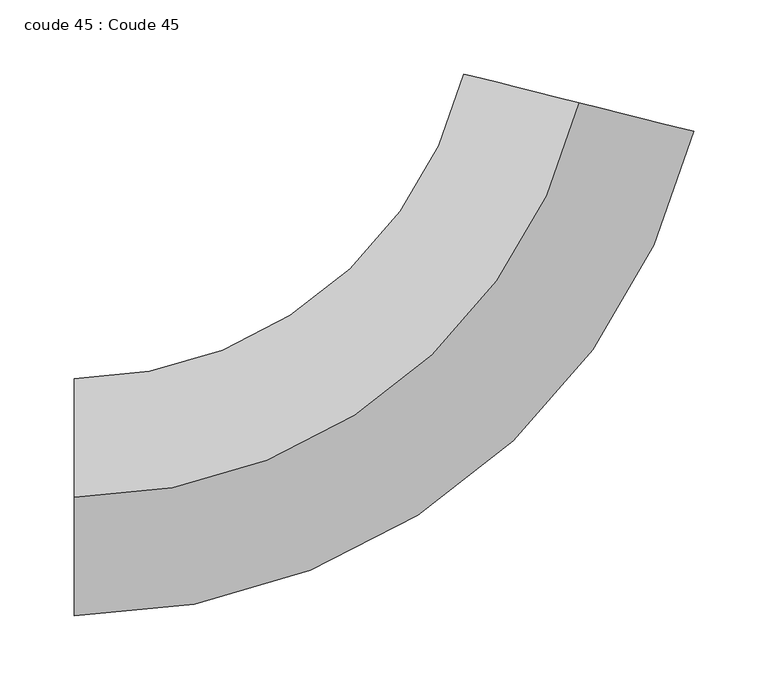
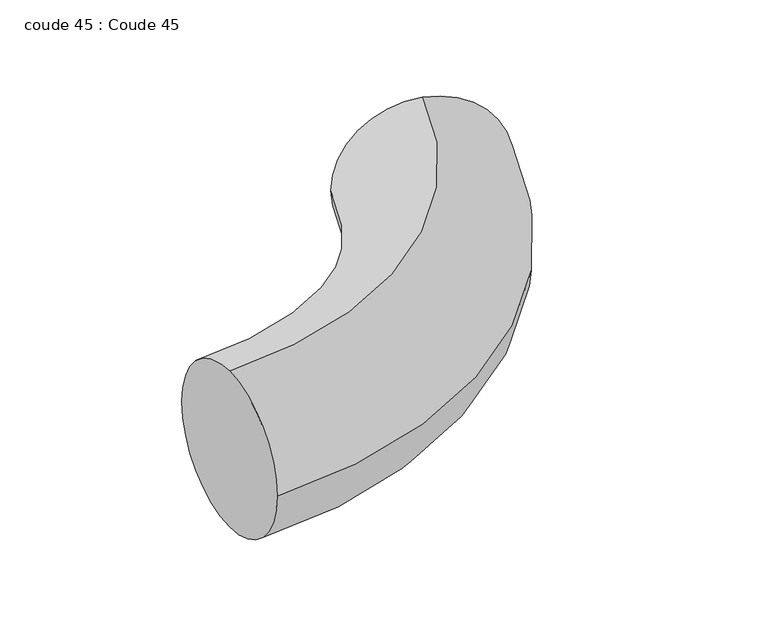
"""IFC4 building model written with IfcOpenShell, lengths in millimetres: duct fitting geometry, coude 45 : Coude 45."""

from ifc_helpers import new_model, si_unit, point, frame, origin, place, context, project, spatial, circle_curve, ellipse_curve, trimmed, source, transform, mapped, element, save
from ifc_brep_helpers import plane_surface, revolved_surface, advanced_brep


def coude_45_coude_45_6452feed(model_context):
    return source(origin(), model_context, "Body", "AdvancedBrep", [
        advanced_brep(
        [(-390.6428133, 148.9288739, 80.0), (-390.6428133, 228.9288739, 0.0), (-390.6428133, 148.9288739, -80.0), (-390.6428133, 68.9288739, 0.0), (-50.0, 415.0682077, 80.0), (27.6236581, 395.714456, 0.0), (-50.0, 415.0682077, -80.0), (-127.6236581, 434.4219593, 0.0)],
        [
            (0, 1, circle_curve(frame((-390.6428133, 148.9288739, 0.0), z_axis=(-1.0, 0.0, 0.0), x_axis=(0.0, 1.0, 0.0)), 80.0)),
            (1, 2, circle_curve(frame((-390.6428133, 148.9288739, 0.0), z_axis=(-1.0, 0.0, 0.0), x_axis=(0.0, 1.0, 0.0)), 80.0)),
            (2, 3, circle_curve(frame((-390.6428133, 148.9288739, 0.0), z_axis=(-1.0, 0.0, 0.0), x_axis=(0.0, 1.0, 0.0)), 80.0)),
            (3, 0, circle_curve(frame((-390.6428133, 148.9288739, 0.0), z_axis=(-1.0, 0.0, 0.0), x_axis=(0.0, 1.0, 0.0)), 80.0)),
            (4, 5, circle_curve(frame((-50.0, 415.0682077, 0.0), z_axis=(0.24192189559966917, 0.9702957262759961, 0.0), x_axis=(-0.9702957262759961, 0.24192189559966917, 0.0)), 80.0)),
            (5, 6, circle_curve(frame((-50.0, 415.0682077, 0.0), z_axis=(0.24192189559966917, 0.9702957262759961, 0.0), x_axis=(-0.9702957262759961, 0.24192189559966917, 0.0)), 80.0)),
            (6, 7, circle_curve(frame((-50.0, 415.0682077, 0.0), z_axis=(0.24192189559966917, 0.9702957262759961, 0.0), x_axis=(-0.9702957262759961, 0.24192189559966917, 0.0)), 80.0)),
            (7, 4, circle_curve(frame((-50.0, 415.0682077, 0.0), z_axis=(0.24192189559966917, 0.9702957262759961, 0.0), x_axis=(-0.9702957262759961, 0.24192189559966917, 0.0)), 80.0)),
            (7, 1, circle_curve(frame((-390.6428133, 500.0, 0.0), z_axis=(0.0, 0.0, -1.0), x_axis=(0.0, -1.0, 0.0)), 271.0711261)),
            (0, 4, circle_curve(frame((-390.6428133, 500.0, 80.0), z_axis=(0.0, 0.0, 1.0), x_axis=(0.0, -1.0, 0.0)), 351.0711261)),
            (6, 2, circle_curve(frame((-390.6428133, 500.0, -80.0), z_axis=(0.0, 0.0, -1.0), x_axis=(0.0, -1.0, 0.0)), 351.0711261)),
            (5, 3, circle_curve(frame((-390.6428133, 500.0, 0.0), z_axis=(0.0, 0.0, -1.0), x_axis=(0.0, -1.0, 0.0)), 431.0711261)),
        ],
        [
            plane_surface(frame((-390.6428133, 148.9288739, 0.0), z_axis=(-1.0, 0.0, 0.0), x_axis=(0.0, 0.0, 1.0))),
            plane_surface(frame((-50.0, 415.0682077, 0.0), z_axis=(0.24192189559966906, 0.9702957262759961, 0.0), x_axis=(0.0, 0.0, 1.0))),
            revolved_surface(trimmed(ellipse_curve(frame((-390.6428133, 148.9288739, 0.0), z_axis=(-1.0, 0.0, 0.0), x_axis=(0.0, 1.0, 0.0)), 80.0, 80.0), [point((-390.6428133, 148.9288739, 80.0))], [point((-390.6428133, 228.9288739, 0.0))], True, "CARTESIAN"), (-390.6428133, 500.0, 0.0), (0.0, 0.0, 1.0)),
            revolved_surface(trimmed(ellipse_curve(frame((-390.6428133, 148.9288739, 0.0), z_axis=(-1.0, 0.0, 0.0), x_axis=(0.0, 1.0, 0.0)), 80.0, 80.0), [point((-390.6428133, 228.9288739, 0.0))], [point((-390.6428133, 148.9288739, -80.0))], True, "CARTESIAN"), (-390.6428133, 500.0, 0.0), (0.0, 0.0, 1.0)),
            revolved_surface(trimmed(ellipse_curve(frame((-390.6428133, 148.9288739, 0.0), z_axis=(-1.0, 0.0, 0.0), x_axis=(0.0, 1.0, 0.0)), 80.0, 80.0), [point((-390.6428133, 148.9288739, -80.0))], [point((-390.6428133, 68.9288739, 0.0))], True, "CARTESIAN"), (-390.6428133, 500.0, 0.0), (0.0, 0.0, 1.0)),
            revolved_surface(trimmed(ellipse_curve(frame((-390.6428133, 148.9288739, 0.0), z_axis=(-1.0, 0.0, 0.0), x_axis=(0.0, 1.0, 0.0)), 80.0, 80.0), [point((-390.6428133, 68.9288739, 0.0))], [point((-390.6428133, 148.9288739, 80.0))], True, "CARTESIAN"), (-390.6428133, 500.0, 0.0), (0.0, 0.0, 1.0)),
        ],
        [
            (0, [[1, 2, 3, 4]]),
            (1, [[5, 6, 7, 8]]),
            (2, [[9, -1, 10, -8]]),
            (3, [[11, -2, -9, -7]]),
            (4, [[12, -3, -11, -6]]),
            (5, [[-10, -4, -12, -5]]),
        ],
    ),
    ])


if __name__ == "__main__":
    model = new_model("IFC4")
    model_context = context("Model", 3, world=origin())
    ifc_project = project(units=[si_unit("LENGTHUNIT", "METRE", prefix="MILLI")], contexts=[model_context])
    site = spatial("IfcSite", under=ifc_project)
    building = spatial("IfcBuilding", under=site)
    placement = place(None, origin())
    coude_45_coude_45_shape = coude_45_coude_45_6452feed(model_context)
    element("IfcDuctFitting", 1, ObjectType="coude 45 : Coude 45", at=placement, inside=building, context=model_context, shape_type="MappedRepresentation", body=[
        mapped(coude_45_coude_45_shape, transform((0.0, 0.0, 0.0), x_axis=(1.0, 0.0, 0.0), y_axis=(0.0, 1.0, 0.0), z_axis=(0.0, 0.0, 1.0))),
    ])
    save(model, "model.ifc")
